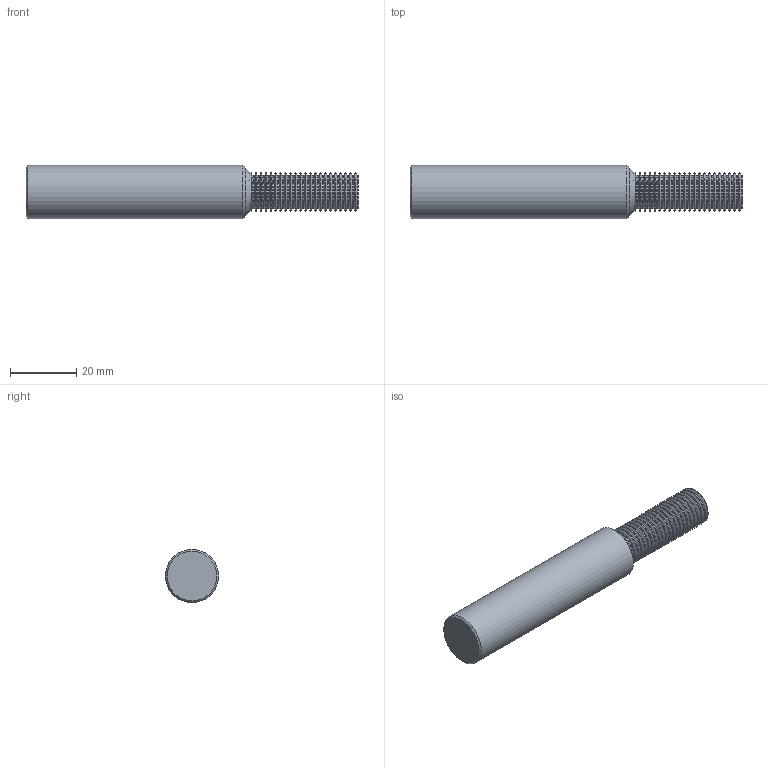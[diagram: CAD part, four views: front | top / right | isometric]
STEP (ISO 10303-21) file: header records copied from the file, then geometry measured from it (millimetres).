
FILE_DESCRIPTION(/* description */ (''),/* implementation_level */ '2;1');
FILE_NAME(/* name */ '00036388-TDM',/* time_stamp */ '2024-02-19T08:34:46+01:00',/* author */ (''),/* organization */ (''),/* preprocessor_version */ 'ST-DEVELOPER v16.5',/* originating_system */ 'HiCAD 2017 2201.0 Build 268',/* authorisation */ '');
FILE_SCHEMA (('AUTOMOTIVE_DESIGN { 1 0 10303 214 1 1 1 1 }'));
Length unit declared in the file: millimetre
Products named in the file (3): Root; ROTATIONSTEIL_0
Assembly tree (2 placements, depth 3):
  Root
    ROTATIONSTEIL_0
      ROTATIONSTEIL_0
Bounding box: 100 x 16 x 16 mm (x, y, z)
Volume: 16333 mm3; surface area: 5732.6 mm2
Topology: 2 solids, 2 shells, 138 faces, 273 edges, 139 vertices
Faces by surface type: cone 46, cylinder 45, torus 43, plane 4
Full cylindrical faces by diameter (mm): 9.994 x22, 11.6 x22, 16 x1
Entity records: 4164 total; most frequent: DIRECTION 556, CARTESIAN_POINT 414, AXIS2_PLACEMENT_3D 278, PRESENTATION_STYLE_ASSIGNMENT 274, COLOUR_RGB 274, DRAUGHTING_PRE_DEFINED_CURVE_FONT 272, CURVE_STYLE 272, OVER_RIDING_STYLED_ITEM 272
